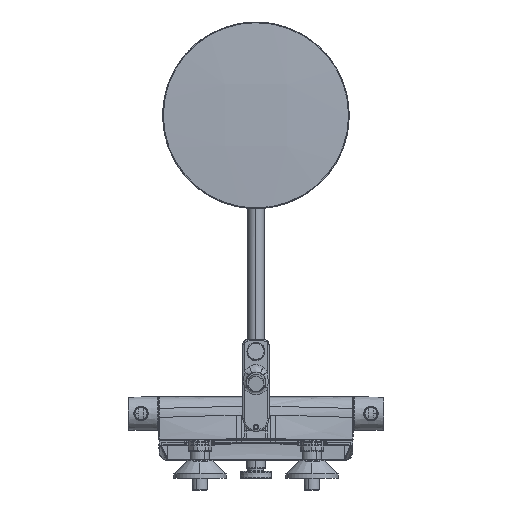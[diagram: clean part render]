
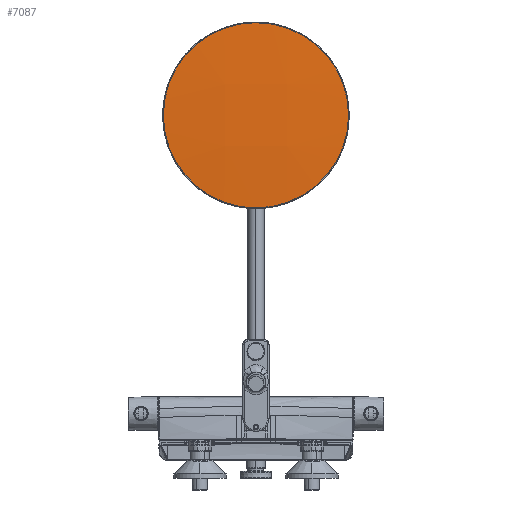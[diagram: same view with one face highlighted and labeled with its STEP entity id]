
A CAD part, front view. The second image highlights one B-rep face of the part: STEP entity #7087.
In plain terms, the highlighted free-form (B-spline) face has degree [3, 3] with [4, 4] control points.
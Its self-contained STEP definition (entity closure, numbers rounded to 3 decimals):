
#1489 = CARTESIAN_POINT ( 'NONE',  ( 0., 1181.76, 476.565 ) ) ;
#4590 = CARTESIAN_POINT ( 'NONE',  ( -124.039, 1181.76, 476.565 ) ) ;
#7087 = ADVANCED_FACE ( 'NONE', ( #15080 ), #57779, .T. ) ;
#7244 = DIRECTION ( 'NONE',  ( -1., 0., 0. ) ) ;
#8204 = CIRCLE ( 'NONE', #47521, 124.039 ) ;
#8962 = EDGE_LOOP ( 'NONE', ( #29111, #32100 ) ) ;
#9256 = CIRCLE ( 'NONE', #19516, 124.039 ) ;
#9327 = CARTESIAN_POINT ( 'NONE',  ( -125.531, 1180.078, 434.795 ) ) ;
#12704 = CARTESIAN_POINT ( 'NONE',  ( -41.627, 1183.066, 603.105 ) ) ;
#15080 = FACE_OUTER_BOUND ( 'NONE', #8962, .T. ) ;
#18361 = CARTESIAN_POINT ( 'NONE',  ( -125.531, 1182.678, 350.715 ) ) ;
#19516 = AXIS2_PLACEMENT_3D ( 'NONE', #1489, #43798, #49234 ) ;
#20828 = EDGE_CURVE ( 'NONE', #39618, #38899, #9256, .T. ) ;
#21555 = CARTESIAN_POINT ( 'NONE',  ( 42.375, 1177.521, 519.038 ) ) ;
#26357 = CARTESIAN_POINT ( 'NONE',  ( 42.375, 1176.042, 434.801 ) ) ;
#26971 = CARTESIAN_POINT ( 'NONE',  ( -41.627, 1176.029, 434.801 ) ) ;
#29111 = ORIENTED_EDGE ( 'NONE', *, *, #32850, .T. ) ;
#30948 = CARTESIAN_POINT ( 'NONE',  ( 126.279, 1187.141, 602.836 ) ) ;
#32100 = ORIENTED_EDGE ( 'NONE', *, *, #20828, .T. ) ;
#32614 = CARTESIAN_POINT ( 'NONE',  ( -125.531, 1187.105, 602.838 ) ) ;
#32850 = EDGE_CURVE ( 'NONE', #38899, #39618, #8204, .T. ) ;
#34707 = CARTESIAN_POINT ( 'NONE',  ( 126.279, 1180.115, 434.795 ) ) ;
#35748 = DIRECTION ( 'NONE',  ( 0., -1., 0.017 ) ) ;
#36004 = CARTESIAN_POINT ( 'NONE',  ( 42.375, 1178.645, 350.591 ) ) ;
#36365 = CARTESIAN_POINT ( 'NONE',  ( 0., 1181.76, 476.565 ) ) ;
#38899 = VERTEX_POINT ( 'NONE', #4590 ) ;
#39618 = VERTEX_POINT ( 'NONE', #53314 ) ;
#41837 = CARTESIAN_POINT ( 'NONE',  ( -41.627, 1177.508, 519.038 ) ) ;
#43090 = CARTESIAN_POINT ( 'NONE',  ( -125.531, 1181.555, 518.902 ) ) ;
#43798 = DIRECTION ( 'NONE',  ( 0., -1., 0.017 ) ) ;
#45418 = CARTESIAN_POINT ( 'NONE',  ( 126.279, 1182.714, 350.716 ) ) ;
#45844 = CARTESIAN_POINT ( 'NONE',  ( 42.375, 1183.079, 603.105 ) ) ;
#46276 = CARTESIAN_POINT ( 'NONE',  ( -41.627, 1178.633, 350.59 ) ) ;
#47521 = AXIS2_PLACEMENT_3D ( 'NONE', #36365, #35748, #7244 ) ;
#48992 = CARTESIAN_POINT ( 'NONE',  ( 126.279, 1181.591, 518.901 ) ) ;
#49234 = DIRECTION ( 'NONE',  ( -1., 0., 0. ) ) ;
#53314 = CARTESIAN_POINT ( 'NONE',  ( 124.039, 1181.76, 476.565 ) ) ;
#57779 =( BOUNDED_SURFACE ( )  B_SPLINE_SURFACE ( 3, 3, ( 
 ( #30948, #48992, #34707, #45418 ),
 ( #45844, #21555, #26357, #36004 ),
 ( #12704, #41837, #26971, #46276 ),
 ( #32614, #43090, #9327, #18361 ) ),
 .UNSPECIFIED., .F., .F., .F. ) 
 B_SPLINE_SURFACE_WITH_KNOTS ( ( 4, 4 ),
 ( 4, 4 ),
 ( 0., 1. ),
 ( 0., 1. ),
 .UNSPECIFIED. ) 
 GEOMETRIC_REPRESENTATION_ITEM ( )  RATIONAL_B_SPLINE_SURFACE ( (
 ( 1., 0.999, 0.999, 1.),
 ( 0.999, 0.998, 0.998, 0.999),
 ( 0.999, 0.998, 0.998, 0.999),
 ( 1., 0.999, 0.999, 1.) ) ) 
 REPRESENTATION_ITEM ( '' )  SURFACE ( )  );
